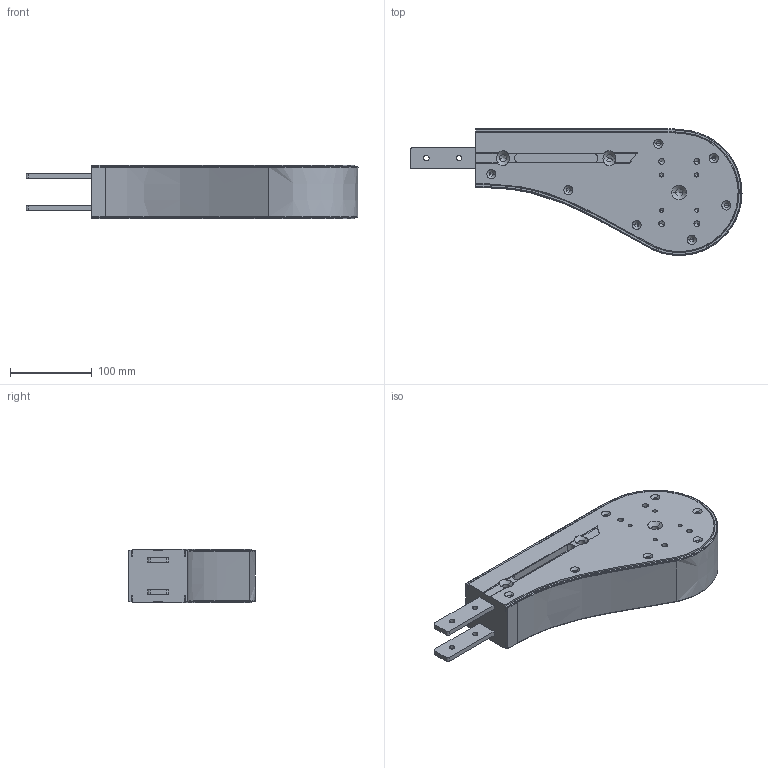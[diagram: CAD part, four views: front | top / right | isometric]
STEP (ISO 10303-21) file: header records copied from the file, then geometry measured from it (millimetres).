
FILE_DESCRIPTION (( 'STEP AP214' ), '1' );
FILE_NAME ('FSIE A65.step', '2017-04-07T11:09:48', ( '' ), ( '' ), 'SwSTEP 2.0', 'SolidWorks 2016', '' );
FILE_SCHEMA (( 'AUTOMOTIVE_DESIGN' ));
Length unit declared in the file: millimetre
Products named in the file (1): FSIE A65
Bounding box: 405.35 x 154.86 x 65 mm (x, y, z)
Volume: 2266962.3 mm3; surface area: 167473.8 mm2
Topology: 1 solids, 1 shells, 399 faces, 981 edges, 538 vertices
Faces by surface type: cylinder 123, cone 116, plane 71, bspline 57, torus 16, sphere 16
Entity records: 15103 total; most frequent: CARTESIAN_POINT 4973, ORIENTED_EDGE 1802, DIRECTION 1774, EDGE_CURVE 901, AXIS2_PLACEMENT_3D 683, VERTEX_POINT 538, EDGE_LOOP 441, LINE 408
